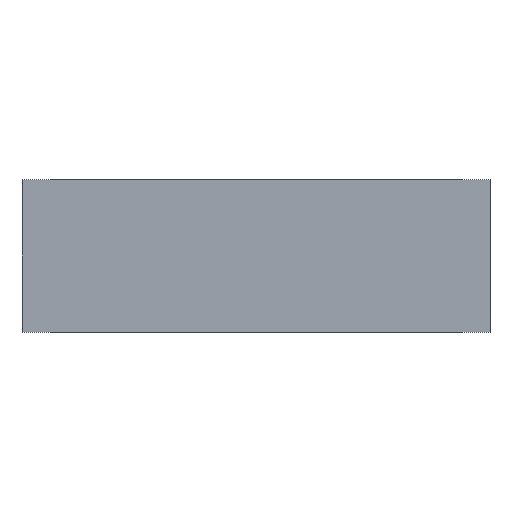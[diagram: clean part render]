
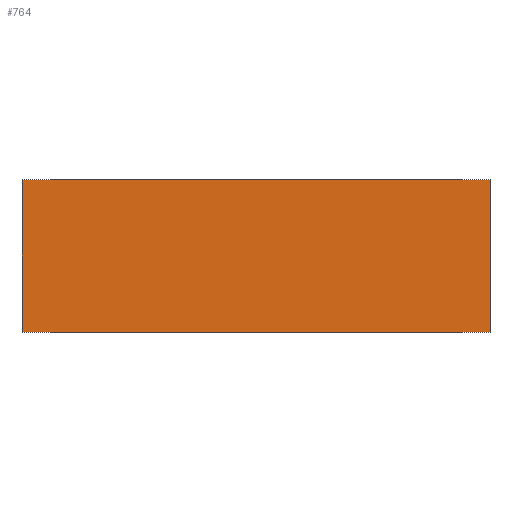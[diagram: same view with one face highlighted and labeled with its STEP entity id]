
A CAD part, front view. The second image highlights one B-rep face of the part: STEP entity #764.
In plain terms, the highlighted planar face has unit normal (0, -1, 0).
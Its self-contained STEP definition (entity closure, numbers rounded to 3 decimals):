
#19 = VECTOR ( 'NONE', #436, 1000. ) ;
#20 = LINE ( 'NONE', #437, #19 ) ;
#88 = ORIENTED_EDGE ( 'NONE', *, *, #585, .T. ) ;
#89 = ORIENTED_EDGE ( 'NONE', *, *, #556, .F. ) ;
#90 = ORIENTED_EDGE ( 'NONE', *, *, #576, .F. ) ;
#91 = ORIENTED_EDGE ( 'NONE', *, *, #570, .T. ) ;
#259 = DIRECTION ( 'NONE',  ( -1., 0., 0. ) ) ;
#260 = DIRECTION ( 'NONE',  ( 0., 1., 0. ) ) ;
#267 = CARTESIAN_POINT ( 'NONE',  ( -100., 0., 65. ) ) ;
#280 = PLANE ( 'NONE',  #895 ) ;
#318 = CARTESIAN_POINT ( 'NONE',  ( -100., 0., 65. ) ) ;
#334 = CARTESIAN_POINT ( 'NONE',  ( 100., 0., 65. ) ) ;
#339 = DIRECTION ( 'NONE',  ( 0., 0., -1. ) ) ;
#346 = CARTESIAN_POINT ( 'NONE',  ( -100., 0., 65. ) ) ;
#369 = DIRECTION ( 'NONE',  ( 0., 0., -1. ) ) ;
#370 = CARTESIAN_POINT ( 'NONE',  ( 100., 0., 65. ) ) ;
#389 = DIRECTION ( 'NONE',  ( 1., 0., 0. ) ) ;
#390 = CARTESIAN_POINT ( 'NONE',  ( -100., 0., 0. ) ) ;
#391 = CARTESIAN_POINT ( 'NONE',  ( 100., 0., 0. ) ) ;
#436 = DIRECTION ( 'NONE',  ( 1., 0., 0. ) ) ;
#437 = CARTESIAN_POINT ( 'NONE',  ( -100., 0., 65. ) ) ;
#464 = CARTESIAN_POINT ( 'NONE',  ( -100., 0., 0. ) ) ;
#483 = VERTEX_POINT ( 'NONE', #464 ) ;
#491 = VERTEX_POINT ( 'NONE', #391 ) ;
#512 = VERTEX_POINT ( 'NONE', #334 ) ;
#517 = VERTEX_POINT ( 'NONE', #318 ) ;
#556 = EDGE_CURVE ( 'NONE', #517, #512, #20, .T. ) ;
#570 = EDGE_CURVE ( 'NONE', #483, #491, #757, .T. ) ;
#576 = EDGE_CURVE ( 'NONE', #512, #491, #745, .T. ) ;
#585 = EDGE_CURVE ( 'NONE', #517, #483, #740, .T. ) ;
#685 = FACE_OUTER_BOUND ( 'NONE', #873, .T. ) ;
#726 = VECTOR ( 'NONE', #339, 1000. ) ;
#740 = LINE ( 'NONE', #346, #726 ) ;
#744 = VECTOR ( 'NONE', #369, 1000. ) ;
#745 = LINE ( 'NONE', #370, #744 ) ;
#756 = VECTOR ( 'NONE', #389, 1000. ) ;
#757 = LINE ( 'NONE', #390, #756 ) ;
#764 = ADVANCED_FACE ( 'NONE', ( #685 ), #280, .F. ) ;
#873 = EDGE_LOOP ( 'NONE', ( #91, #90, #89, #88 ) ) ;
#895 = AXIS2_PLACEMENT_3D ( 'NONE', #267, #260, #259 ) ;
